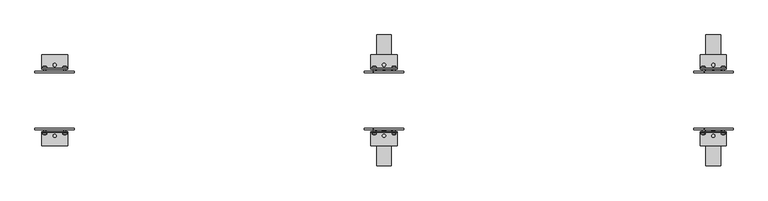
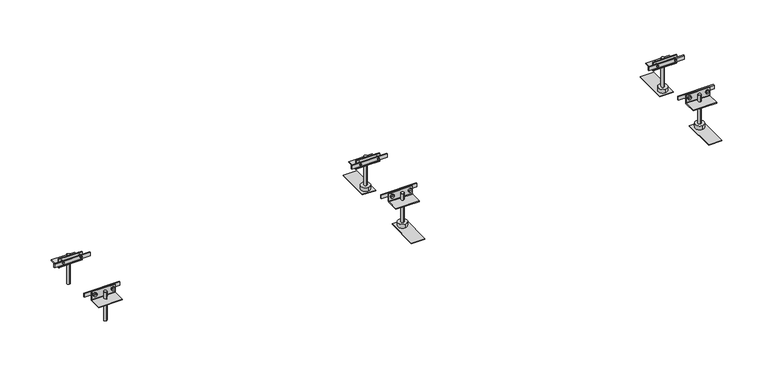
"""IFC4 building model written with IfcOpenShell, lengths in millimetres: proxy geometry, Electrical_Installation_Hager_BKW-Trunking-System-With-Trunking-Bottom-For-Dry-Cleaned-Floors : Nominal Size 150  Length 2.4 m."""

from ifc_helpers import new_model, si_unit, point, frame, frame_2d, origin, place, context, project, spatial, polyline, circle_curve, ellipse_curve, trimmed, segment, composite_curve, outline, extrude, source, transform, mapped, element, save
from ifc_brep_helpers import plane_surface, cylinder_surface, revolved_surface, advanced_brep


def electrical_fixtures_1b6315bd(model_context):
    return source(origin(), model_context, "Body", "SolidModel", [
        advanced_brep(
        [(1629.0575247, -81.6418922, 2.5), (1619.4769168, -81.6418922, 2.5), (1619.4769168, -79.7, 2.5), (1629.0575247, -79.7, 2.5), (1621.7042517, -79.7, 2.5), (1626.8301898, -79.7, 2.5), (1621.7042517, -67.7, 2.5), (1626.8301898, -67.7, 2.5), (1624.2672208, -67.7, 2.5), (1624.2672208, -83.3479209, 2.5)],
        [
            (0, 1, circle_curve(frame((1624.2672208, -81.6418922, 2.5), z_axis=(0.0, 1.0, 0.0), x_axis=(-1.0, 0.0, 0.0)), 4.790304)),
            (1, 2),
            (2, 3, circle_curve(frame((1624.2672208, -79.7, 2.5), z_axis=(0.0, -1.0, 0.0), x_axis=(-1.0, 0.0, 0.0)), 4.790304)),
            (3, 0),
            (1, 0, circle_curve(frame((1624.2672208, -81.6418922, 2.5), z_axis=(0.0, 1.0, 0.0), x_axis=(-1.0, 0.0, 0.0)), 4.790304)),
            (3, 2, circle_curve(frame((1624.2672208, -79.7, 2.5), z_axis=(0.0, -1.0, 0.0), x_axis=(-1.0, 0.0, 0.0)), 4.790304)),
            (2, 4),
            (4, 5, circle_curve(frame((1624.2672208, -79.7, 2.5), z_axis=(0.0, -1.0, 0.0), x_axis=(-1.0, 0.0, 0.0)), 2.562969)),
            (5, 3),
            (5, 4, circle_curve(frame((1624.2672208, -79.7, 2.5), z_axis=(0.0, -1.0, 0.0), x_axis=(-1.0, 0.0, 0.0)), 2.562969)),
            (4, 6),
            (6, 7, circle_curve(frame((1624.2672208, -67.7, 2.5), z_axis=(0.0, -1.0, 0.0), x_axis=(-1.0, 0.0, 0.0)), 2.562969)),
            (7, 5),
            (7, 6, circle_curve(frame((1624.2672208, -67.7, 2.5), z_axis=(0.0, -1.0, 0.0), x_axis=(-1.0, 0.0, 0.0)), 2.562969)),
            (6, 8),
            (8, 7),
            (9, 1, circle_curve(frame((1624.2353142, -75.8592246, 2.5), z_axis=(0.0, 0.0, -1.0), x_axis=(-1.0, 0.0, 0.0)), 7.4887643)),
            (0, 9, circle_curve(frame((1624.2991274, -75.8592246, 2.5), z_axis=(0.0, 0.0, -1.0), x_axis=(1.0, 0.0, 0.0)), 7.4887643)),
        ],
        [
            cylinder_surface(frame((1624.2672208, -79.2950786, 2.5), z_axis=(0.0, -1.0, 0.0), x_axis=(-1.0, 0.0, 0.0)), 4.790304),
            plane_surface(frame((1624.2672208, -79.7, 2.5), z_axis=(0.0, 1.0, 0.0), x_axis=(-1.0, 0.0, 0.0))),
            cylinder_surface(frame((1624.2672208, -79.2950786, 2.5), z_axis=(0.0, -1.0, 0.0), x_axis=(-1.0, 0.0, 0.0)), 2.562969),
            plane_surface(frame((1624.2672208, -67.7, 2.5), z_axis=(0.0, 1.0, 0.0), x_axis=(-1.0, 0.0, 0.0))),
            revolved_surface(trimmed(ellipse_curve(frame((1624.2353142, -75.8592246, 2.5), z_axis=(0.0, 0.0, 1.0), x_axis=(-1.0, 0.0, 0.0)), 7.4887643, 7.4887643), [point((1619.4769168, -81.6418922, 2.5))], [point((1624.2672208, -83.3479209, 2.5))], True, "CARTESIAN"), (1624.2672208, -79.2950786, 2.5), (0.0, -1.0, 0.0)),
        ],
        [
            (0, [[1, 2, 3, 4]]),
            (0, [[5, -4, 6, -2]]),
            (1, [[-3, 7, 8, 9]]),
            (1, [[-6, -9, 10, -7]]),
            (2, [[-8, 11, 12, 13]]),
            (2, [[-10, -13, 14, -11]]),
            (3, [[-12, 15, 16]]),
            (3, [[-14, -16, -15]]),
            (4, [[17, -1, 18]]),
            (4, [[-18, -5, -17]]),
        ],
    ),
        advanced_brep(
        [(1580.790304, -81.6418922, 2.5), (1571.209696, -81.6418922, 2.5), (1571.209696, -79.7, 2.5), (1580.790304, -79.7, 2.5), (1573.437031, -79.7, 2.5), (1578.562969, -79.7, 2.5), (1573.437031, -67.7, 2.5), (1578.562969, -67.7, 2.5), (1576.0, -67.7, 2.5), (1576.0, -83.3479209, 2.5)],
        [
            (0, 1, circle_curve(frame((1576.0, -81.6418922, 2.5), z_axis=(0.0, 1.0, 0.0), x_axis=(-1.0, 0.0, 0.0)), 4.790304)),
            (1, 2),
            (2, 3, circle_curve(frame((1576.0, -79.7, 2.5), z_axis=(0.0, -1.0, 0.0), x_axis=(-1.0, 0.0, 0.0)), 4.790304)),
            (3, 0),
            (1, 0, circle_curve(frame((1576.0, -81.6418922, 2.5), z_axis=(0.0, 1.0, 0.0), x_axis=(-1.0, 0.0, 0.0)), 4.790304)),
            (3, 2, circle_curve(frame((1576.0, -79.7, 2.5), z_axis=(0.0, -1.0, 0.0), x_axis=(-1.0, 0.0, 0.0)), 4.790304)),
            (2, 4),
            (4, 5, circle_curve(frame((1576.0, -79.7, 2.5), z_axis=(0.0, -1.0, 0.0), x_axis=(-1.0, 0.0, 0.0)), 2.562969)),
            (5, 3),
            (5, 4, circle_curve(frame((1576.0, -79.7, 2.5), z_axis=(0.0, -1.0, 0.0), x_axis=(-1.0, 0.0, 0.0)), 2.562969)),
            (4, 6),
            (6, 7, circle_curve(frame((1576.0, -67.7, 2.5), z_axis=(0.0, -1.0, 0.0), x_axis=(-1.0, 0.0, 0.0)), 2.562969)),
            (7, 5),
            (7, 6, circle_curve(frame((1576.0, -67.7, 2.5), z_axis=(0.0, -1.0, 0.0), x_axis=(-1.0, 0.0, 0.0)), 2.562969)),
            (6, 8),
            (8, 7),
            (9, 1, circle_curve(frame((1575.9680934, -75.8592246, 2.5), z_axis=(0.0, 0.0, -1.0), x_axis=(-1.0, 0.0, 0.0)), 7.4887643)),
            (0, 9, circle_curve(frame((1576.0319066, -75.8592246, 2.5), z_axis=(0.0, 0.0, -1.0), x_axis=(1.0, 0.0, 0.0)), 7.4887643)),
        ],
        [
            cylinder_surface(frame((1576.0, -79.2950786, 2.5), z_axis=(0.0, -1.0, 0.0), x_axis=(-1.0, 0.0, 0.0)), 4.790304),
            plane_surface(frame((1576.0, -79.7, 2.5), z_axis=(0.0, 1.0, 0.0), x_axis=(-1.0, 0.0, 0.0))),
            cylinder_surface(frame((1576.0, -79.2950786, 2.5), z_axis=(0.0, -1.0, 0.0), x_axis=(-1.0, 0.0, 0.0)), 2.562969),
            plane_surface(frame((1576.0, -67.7, 2.5), z_axis=(0.0, 1.0, 0.0), x_axis=(-1.0, 0.0, 0.0))),
            revolved_surface(trimmed(ellipse_curve(frame((1575.9680934, -75.8592246, 2.5), z_axis=(0.0, 0.0, 1.0), x_axis=(-1.0, 0.0, 0.0)), 7.4887643, 7.4887643), [point((1571.209696, -81.6418922, 2.5))], [point((1576.0, -83.3479209, 2.5))], True, "CARTESIAN"), (1576.0, -79.2950786, 2.5), (0.0, -1.0, 0.0)),
        ],
        [
            (0, [[1, 2, 3, 4]]),
            (0, [[5, -4, 6, -2]]),
            (1, [[-3, 7, 8, 9]]),
            (1, [[-6, -9, 10, -7]]),
            (2, [[-8, 11, 12, 13]]),
            (2, [[-10, -13, 14, -11]]),
            (3, [[-12, 15, 16]]),
            (3, [[-14, -16, -15]]),
            (4, [[17, -1, 18]]),
            (4, [[-18, -5, -17]]),
        ],
    ),
        advanced_brep(
        [(1629.0575247, 79.7, 2.5), (1619.4769168, 79.7, 2.5), (1619.4769168, 81.6418922, 2.5), (1629.0575247, 81.6418922, 2.5), (1626.8301898, 79.7, 2.5), (1621.7042517, 79.7, 2.5), (1626.8301898, 67.7, 2.5), (1621.7042517, 67.7, 2.5), (1624.2672208, 67.7, 2.5), (1624.2672208, 83.3479209, 2.5)],
        [
            (0, 1, circle_curve(frame((1624.2672208, 79.7, 2.5), z_axis=(0.0, 1.0, 0.0), x_axis=(-1.0, 0.0, 0.0)), 4.790304)),
            (1, 2),
            (2, 3, circle_curve(frame((1624.2672208, 81.6418922, 2.5), z_axis=(0.0, -1.0, 0.0), x_axis=(-1.0, 0.0, 0.0)), 4.790304)),
            (3, 0),
            (1, 0, circle_curve(frame((1624.2672208, 79.7, 2.5), z_axis=(0.0, 1.0, 0.0), x_axis=(-1.0, 0.0, 0.0)), 4.790304)),
            (3, 2, circle_curve(frame((1624.2672208, 81.6418922, 2.5), z_axis=(0.0, -1.0, 0.0), x_axis=(-1.0, 0.0, 0.0)), 4.790304)),
            (4, 5, circle_curve(frame((1624.2672208, 79.7, 2.5), z_axis=(0.0, 1.0, 0.0), x_axis=(-1.0, 0.0, 0.0)), 2.562969)),
            (5, 1),
            (0, 4),
            (5, 4, circle_curve(frame((1624.2672208, 79.7, 2.5), z_axis=(0.0, 1.0, 0.0), x_axis=(-1.0, 0.0, 0.0)), 2.562969)),
            (6, 7, circle_curve(frame((1624.2672208, 67.7, 2.5), z_axis=(0.0, 1.0, 0.0), x_axis=(-1.0, 0.0, 0.0)), 2.562969)),
            (7, 5),
            (4, 6),
            (7, 6, circle_curve(frame((1624.2672208, 67.7, 2.5), z_axis=(0.0, 1.0, 0.0), x_axis=(-1.0, 0.0, 0.0)), 2.562969)),
            (8, 7),
            (6, 8),
            (2, 9, circle_curve(frame((1624.2353142, 75.8592246, 2.5), z_axis=(0.0, 0.0, -1.0), x_axis=(-1.0, 0.0, 0.0)), 7.4887643)),
            (9, 3, circle_curve(frame((1624.2991274, 75.8592246, 2.5), z_axis=(0.0, 0.0, -1.0), x_axis=(1.0, 0.0, 0.0)), 7.4887643)),
        ],
        [
            cylinder_surface(frame((1624.2672208, 79.2950786, 2.5), z_axis=(0.0, -1.0, 0.0), x_axis=(-1.0, 0.0, 0.0)), 4.790304),
            plane_surface(frame((1624.2672208, 79.7, 2.5), z_axis=(0.0, -1.0, 0.0), x_axis=(-1.0, 0.0, 0.0))),
            cylinder_surface(frame((1624.2672208, 79.2950786, 2.5), z_axis=(0.0, -1.0, 0.0), x_axis=(-1.0, 0.0, 0.0)), 2.562969),
            plane_surface(frame((1624.2672208, 67.7, 2.5), z_axis=(0.0, -1.0, 0.0), x_axis=(-1.0, 0.0, 0.0))),
            revolved_surface(trimmed(ellipse_curve(frame((1624.2353142, 75.8592246, 2.5), z_axis=(0.0, 0.0, 1.0), x_axis=(-1.0, 0.0, 0.0)), 7.4887643, 7.4887643), [point((1624.2672208, 83.3479209, 2.5))], [point((1619.4769168, 81.6418922, 2.5))], True, "CARTESIAN"), (1624.2672208, 79.2950786, 2.5), (0.0, -1.0, 0.0)),
        ],
        [
            (0, [[1, 2, 3, 4]]),
            (0, [[5, -4, 6, -2]]),
            (1, [[7, 8, -1, 9]]),
            (1, [[10, -9, -5, -8]]),
            (2, [[11, 12, -7, 13]]),
            (2, [[14, -13, -10, -12]]),
            (3, [[15, -11, 16]]),
            (3, [[-16, -14, -15]]),
            (4, [[-3, 17, 18]]),
            (4, [[-6, -18, -17]]),
        ],
    ),
        advanced_brep(
        [(1580.790304, 79.7, 2.5), (1571.209696, 79.7, 2.5), (1571.209696, 81.6418922, 2.5), (1580.790304, 81.6418922, 2.5), (1578.562969, 79.7, 2.5), (1573.437031, 79.7, 2.5), (1578.562969, 67.7, 2.5), (1573.437031, 67.7, 2.5), (1576.0, 67.7, 2.5), (1576.0, 83.3479209, 2.5)],
        [
            (0, 1, circle_curve(frame((1576.0, 79.7, 2.5), z_axis=(0.0, 1.0, 0.0), x_axis=(-1.0, 0.0, 0.0)), 4.790304)),
            (1, 2),
            (2, 3, circle_curve(frame((1576.0, 81.6418922, 2.5), z_axis=(0.0, -1.0, 0.0), x_axis=(-1.0, 0.0, 0.0)), 4.790304)),
            (3, 0),
            (1, 0, circle_curve(frame((1576.0, 79.7, 2.5), z_axis=(0.0, 1.0, 0.0), x_axis=(-1.0, 0.0, 0.0)), 4.790304)),
            (3, 2, circle_curve(frame((1576.0, 81.6418922, 2.5), z_axis=(0.0, -1.0, 0.0), x_axis=(-1.0, 0.0, 0.0)), 4.790304)),
            (4, 5, circle_curve(frame((1576.0, 79.7, 2.5), z_axis=(0.0, 1.0, 0.0), x_axis=(-1.0, 0.0, 0.0)), 2.562969)),
            (5, 1),
            (0, 4),
            (5, 4, circle_curve(frame((1576.0, 79.7, 2.5), z_axis=(0.0, 1.0, 0.0), x_axis=(-1.0, 0.0, 0.0)), 2.562969)),
            (6, 7, circle_curve(frame((1576.0, 67.7, 2.5), z_axis=(0.0, 1.0, 0.0), x_axis=(-1.0, 0.0, 0.0)), 2.562969)),
            (7, 5),
            (4, 6),
            (7, 6, circle_curve(frame((1576.0, 67.7, 2.5), z_axis=(0.0, 1.0, 0.0), x_axis=(-1.0, 0.0, 0.0)), 2.562969)),
            (8, 7),
            (6, 8),
            (2, 9, circle_curve(frame((1575.9680934, 75.8592246, 2.5), z_axis=(0.0, 0.0, -1.0), x_axis=(-1.0, 0.0, 0.0)), 7.4887643)),
            (9, 3, circle_curve(frame((1576.0319066, 75.8592246, 2.5), z_axis=(0.0, 0.0, -1.0), x_axis=(1.0, 0.0, 0.0)), 7.4887643)),
        ],
        [
            cylinder_surface(frame((1576.0, 79.2950786, 2.5), z_axis=(0.0, -1.0, 0.0), x_axis=(-1.0, 0.0, 0.0)), 4.790304),
            plane_surface(frame((1576.0, 79.7, 2.5), z_axis=(0.0, -1.0, 0.0), x_axis=(-1.0, 0.0, 0.0))),
            cylinder_surface(frame((1576.0, 79.2950786, 2.5), z_axis=(0.0, -1.0, 0.0), x_axis=(-1.0, 0.0, 0.0)), 2.562969),
            plane_surface(frame((1576.0, 67.7, 2.5), z_axis=(0.0, -1.0, 0.0), x_axis=(-1.0, 0.0, 0.0))),
            revolved_surface(trimmed(ellipse_curve(frame((1575.9680934, 75.8592246, 2.5), z_axis=(0.0, 0.0, 1.0), x_axis=(-1.0, 0.0, 0.0)), 7.4887643, 7.4887643), [point((1576.0, 83.3479209, 2.5))], [point((1571.209696, 81.6418922, 2.5))], True, "CARTESIAN"), (1576.0, 79.2950786, 2.5), (0.0, -1.0, 0.0)),
        ],
        [
            (0, [[1, 2, 3, 4]]),
            (0, [[5, -4, 6, -2]]),
            (1, [[7, 8, -1, 9]]),
            (1, [[10, -9, -5, -8]]),
            (2, [[11, 12, -7, 13]]),
            (2, [[14, -13, -10, -12]]),
            (3, [[15, -11, 16]]),
            (3, [[-16, -14, -15]]),
            (4, [[-3, 17, 18]]),
            (4, [[-6, -18, -17]]),
        ],
    ),
        extrude(outline(polyline([(1552.0, 67.7), (1552.0, 70.7), (1648.0, 70.7), (1648.0, 67.7), (1552.0, 67.7)])), frame((0.0, 0.0, -2.5), z_axis=(0.0, 0.0, 1.0), x_axis=(1.0, 0.0, 0.0)), (0.0, 0.0, 1.0), 10.0),
        extrude(outline(polyline([(1552.0, -70.7), (1552.0, -67.7), (1648.0, -67.7), (1648.0, -70.7), (1552.0, -70.7)])), frame((0.0, 0.0, -2.5), z_axis=(0.0, 0.0, 1.0), x_axis=(1.0, 0.0, 0.0)), (0.0, 0.0, 1.0), 10.0),
        extrude(outline(composite_curve([segment(polyline([(75.6, 10.9), (77.6, 10.9), (77.6, -11.1088822)]), True, "CONTINUOUS"), segment(trimmed(circle_curve(frame_2d((78.5911178, -11.1088822)), 0.9911178), [point((77.6, -11.1088822))], [point((78.5911178, -12.1))], True, "CARTESIAN"), True, "CONTINUOUS"), segment(polyline([(78.5911178, -12.1), (110.6, -12.1), (110.6, -14.1), (78.6002521, -14.1)]), True, "CONTINUOUS"), segment(trimmed(circle_curve(frame_2d((78.6002521, -11.0997479)), 3.0002521), [point((78.6002521, -14.1))], [point((75.6, -11.0997479))], False, "CARTESIAN"), True, "CONTINUOUS"), segment(polyline([(75.6, -11.0997479), (75.6, 10.9)]), True, "CONTINUOUS")], self_intersect=False)), frame((1568.3, 0.0, 0.0), z_axis=(1.0, 0.0, 0.0), x_axis=(0.0, 1.0, 0.0)), (0.0, 0.0, 1.0), 63.4),
        extrude(outline(composite_curve([segment(polyline([(-75.6, 10.9), (-75.6, -11.0997479)]), True, "CONTINUOUS"), segment(trimmed(circle_curve(frame_2d((-78.6002521, -11.0997479)), 3.0002521), [point((-75.6, -11.0997479))], [point((-78.6002521, -14.1))], False, "CARTESIAN"), True, "CONTINUOUS"), segment(polyline([(-78.6002521, -14.1), (-110.6, -14.1), (-110.6, -12.1), (-78.5911178, -12.1)]), True, "CONTINUOUS"), segment(trimmed(circle_curve(frame_2d((-78.5911178, -11.1088822)), 0.9911178), [point((-78.5911178, -12.1))], [point((-77.6, -11.1088822))], True, "CARTESIAN"), True, "CONTINUOUS"), segment(polyline([(-77.6, -11.1088822), (-77.6, 10.9), (-75.6, 10.9)]), True, "CONTINUOUS")], self_intersect=False)), frame((1568.3, 0.0, 0.0), z_axis=(1.0, 0.0, 0.0), x_axis=(0.0, 1.0, 0.0)), (0.0, 0.0, 1.0), 63.4),
        extrude(outline(composite_curve([segment(trimmed(circle_curve(frame_2d((1600.0, 86.1712378)), 3.9923162), [point((1600.0, 90.163554))], [point((1600.0, 82.1789216))], False, "CARTESIAN"), True, "CONTINUOUS"), segment(trimmed(circle_curve(frame_2d((1600.0, 86.1712378)), 3.9923162), [point((1600.0, 82.1789216))], [point((1600.0, 90.163554))], False, "CARTESIAN"), True, "CONTINUOUS")], self_intersect=False)), frame((0.0, 0.0, -74.8), z_axis=(0.0, 0.0, 1.0), x_axis=(1.0, 0.0, 0.0)), (0.0, 0.0, 1.0), 81.8),
        extrude(outline(composite_curve([segment(trimmed(circle_curve(frame_2d((1600.0, -86.0787011)), 3.991847), [point((1600.0, -82.0868541))], [point((1600.0, -90.0705482))], False, "CARTESIAN"), True, "CONTINUOUS"), segment(trimmed(circle_curve(frame_2d((1600.0, -86.0787011)), 3.991847), [point((1600.0, -90.0705482))], [point((1600.0, -82.0868541))], False, "CARTESIAN"), True, "CONTINUOUS")], self_intersect=False)), frame((0.0, 0.0, -74.8), z_axis=(0.0, 0.0, 1.0), x_axis=(1.0, 0.0, 0.0)), (0.0, 0.0, 1.0), 81.8),
        extrude(outline(composite_curve([segment(trimmed(circle_curve(frame_2d((1600.0, 86.1652527)), 12.0), [point((1600.0, 98.1652527))], [point((1600.0, 74.1652527))], False, "CARTESIAN"), True, "CONTINUOUS"), segment(trimmed(circle_curve(frame_2d((1600.0, 86.1652527)), 12.0), [point((1600.0, 74.1652527))], [point((1600.0, 98.1652527))], False, "CARTESIAN"), True, "CONTINUOUS")], self_intersect=False)), frame((0.0, 0.0, -85.5), z_axis=(0.0, 0.0, 1.0), x_axis=(1.0, 0.0, 0.0)), (0.0, 0.0, 1.0), 10.7),
        extrude(outline(composite_curve([segment(trimmed(circle_curve(frame_2d((1600.0, -86.112037)), 12.0), [point((1600.0, -74.112037))], [point((1600.0, -98.112037))], False, "CARTESIAN"), True, "CONTINUOUS"), segment(trimmed(circle_curve(frame_2d((1600.0, -86.112037)), 12.0), [point((1600.0, -98.112037))], [point((1600.0, -74.112037))], False, "CARTESIAN"), True, "CONTINUOUS")], self_intersect=False)), frame((0.0, 0.0, -85.5), z_axis=(0.0, 0.0, 1.0), x_axis=(1.0, 0.0, 0.0)), (0.0, 0.0, 1.0), 10.7),
        extrude(outline(polyline([(1618.0, 69.1), (1582.0, 69.1), (1582.0, 159.1), (1618.0, 159.1), (1618.0, 69.1)])), frame((0.0, 0.0, -87.0), z_axis=(0.0, 0.0, 1.0), x_axis=(1.0, 0.0, 0.0)), (0.0, 0.0, 1.0), 1.5),
        extrude(outline(polyline([(1618.0, -159.1), (1582.0, -159.1), (1582.0, -69.1), (1618.0, -69.1), (1618.0, -159.1)])), frame((0.0, 0.0, -87.0), z_axis=(0.0, 0.0, 1.0), x_axis=(1.0, 0.0, 0.0)), (0.0, 0.0, 1.0), 1.5),
        advanced_brep(
        [(829.0575247, -81.6418922, 2.5), (819.4769168, -81.6418922, 2.5), (819.4769168, -79.7, 2.5), (829.0575247, -79.7, 2.5), (821.7042517, -79.7, 2.5), (826.8301898, -79.7, 2.5), (821.7042517, -67.7, 2.5), (826.8301898, -67.7, 2.5), (824.2672208, -67.7, 2.5), (824.2672208, -83.3479209, 2.5)],
        [
            (0, 1, circle_curve(frame((824.2672208, -81.6418922, 2.5), z_axis=(0.0, 1.0, 0.0), x_axis=(-1.0, 0.0, 0.0)), 4.790304)),
            (1, 2),
            (2, 3, circle_curve(frame((824.2672208, -79.7, 2.5), z_axis=(0.0, -1.0, 0.0), x_axis=(-1.0, 0.0, 0.0)), 4.790304)),
            (3, 0),
            (1, 0, circle_curve(frame((824.2672208, -81.6418922, 2.5), z_axis=(0.0, 1.0, 0.0), x_axis=(-1.0, 0.0, 0.0)), 4.790304)),
            (3, 2, circle_curve(frame((824.2672208, -79.7, 2.5), z_axis=(0.0, -1.0, 0.0), x_axis=(-1.0, 0.0, 0.0)), 4.790304)),
            (2, 4),
            (4, 5, circle_curve(frame((824.2672208, -79.7, 2.5), z_axis=(0.0, -1.0, 0.0), x_axis=(-1.0, 0.0, 0.0)), 2.562969)),
            (5, 3),
            (5, 4, circle_curve(frame((824.2672208, -79.7, 2.5), z_axis=(0.0, -1.0, 0.0), x_axis=(-1.0, 0.0, 0.0)), 2.562969)),
            (4, 6),
            (6, 7, circle_curve(frame((824.2672208, -67.7, 2.5), z_axis=(0.0, -1.0, 0.0), x_axis=(-1.0, 0.0, 0.0)), 2.562969)),
            (7, 5),
            (7, 6, circle_curve(frame((824.2672208, -67.7, 2.5), z_axis=(0.0, -1.0, 0.0), x_axis=(-1.0, 0.0, 0.0)), 2.562969)),
            (6, 8),
            (8, 7),
            (9, 1, circle_curve(frame((824.2353142, -75.8592246, 2.5), z_axis=(0.0, 0.0, -1.0), x_axis=(-1.0, 0.0, 0.0)), 7.4887643)),
            (0, 9, circle_curve(frame((824.2991274, -75.8592246, 2.5), z_axis=(0.0, 0.0, -1.0), x_axis=(1.0, 0.0, 0.0)), 7.4887643)),
        ],
        [
            cylinder_surface(frame((824.2672208, -79.2950786, 2.5), z_axis=(0.0, -1.0, 0.0), x_axis=(-1.0, 0.0, 0.0)), 4.790304),
            plane_surface(frame((824.2672208, -79.7, 2.5), z_axis=(0.0, 1.0, 0.0), x_axis=(-1.0, 0.0, 0.0))),
            cylinder_surface(frame((824.2672208, -79.2950786, 2.5), z_axis=(0.0, -1.0, 0.0), x_axis=(-1.0, 0.0, 0.0)), 2.562969),
            plane_surface(frame((824.2672208, -67.7, 2.5), z_axis=(0.0, 1.0, 0.0), x_axis=(-1.0, 0.0, 0.0))),
            revolved_surface(trimmed(ellipse_curve(frame((824.2353142, -75.8592246, 2.5), z_axis=(0.0, 0.0, 1.0), x_axis=(-1.0, 0.0, 0.0)), 7.4887643, 7.4887643), [point((819.4769168, -81.6418922, 2.5))], [point((824.2672208, -83.3479209, 2.5))], True, "CARTESIAN"), (824.2672208, -79.2950786, 2.5), (0.0, -1.0, 0.0)),
        ],
        [
            (0, [[1, 2, 3, 4]]),
            (0, [[5, -4, 6, -2]]),
            (1, [[-3, 7, 8, 9]]),
            (1, [[-6, -9, 10, -7]]),
            (2, [[-8, 11, 12, 13]]),
            (2, [[-10, -13, 14, -11]]),
            (3, [[-12, 15, 16]]),
            (3, [[-14, -16, -15]]),
            (4, [[17, -1, 18]]),
            (4, [[-18, -5, -17]]),
        ],
    ),
        advanced_brep(
        [(780.790304, -81.6418922, 2.5), (771.209696, -81.6418922, 2.5), (771.209696, -79.7, 2.5), (780.790304, -79.7, 2.5), (773.437031, -79.7, 2.5), (778.562969, -79.7, 2.5), (773.437031, -67.7, 2.5), (778.562969, -67.7, 2.5), (776.0, -67.7, 2.5), (776.0, -83.3479209, 2.5)],
        [
            (0, 1, circle_curve(frame((776.0, -81.6418922, 2.5), z_axis=(0.0, 1.0, 0.0), x_axis=(-1.0, 0.0, 0.0)), 4.790304)),
            (1, 2),
            (2, 3, circle_curve(frame((776.0, -79.7, 2.5), z_axis=(0.0, -1.0, 0.0), x_axis=(-1.0, 0.0, 0.0)), 4.790304)),
            (3, 0),
            (1, 0, circle_curve(frame((776.0, -81.6418922, 2.5), z_axis=(0.0, 1.0, 0.0), x_axis=(-1.0, 0.0, 0.0)), 4.790304)),
            (3, 2, circle_curve(frame((776.0, -79.7, 2.5), z_axis=(0.0, -1.0, 0.0), x_axis=(-1.0, 0.0, 0.0)), 4.790304)),
            (2, 4),
            (4, 5, circle_curve(frame((776.0, -79.7, 2.5), z_axis=(0.0, -1.0, 0.0), x_axis=(-1.0, 0.0, 0.0)), 2.562969)),
            (5, 3),
            (5, 4, circle_curve(frame((776.0, -79.7, 2.5), z_axis=(0.0, -1.0, 0.0), x_axis=(-1.0, 0.0, 0.0)), 2.562969)),
            (4, 6),
            (6, 7, circle_curve(frame((776.0, -67.7, 2.5), z_axis=(0.0, -1.0, 0.0), x_axis=(-1.0, 0.0, 0.0)), 2.562969)),
            (7, 5),
            (7, 6, circle_curve(frame((776.0, -67.7, 2.5), z_axis=(0.0, -1.0, 0.0), x_axis=(-1.0, 0.0, 0.0)), 2.562969)),
            (6, 8),
            (8, 7),
            (9, 1, circle_curve(frame((775.9680934, -75.8592246, 2.5), z_axis=(0.0, 0.0, -1.0), x_axis=(-1.0, 0.0, 0.0)), 7.4887643)),
            (0, 9, circle_curve(frame((776.0319066, -75.8592246, 2.5), z_axis=(0.0, 0.0, -1.0), x_axis=(1.0, 0.0, 0.0)), 7.4887643)),
        ],
        [
            cylinder_surface(frame((776.0, -79.2950786, 2.5), z_axis=(0.0, -1.0, 0.0), x_axis=(-1.0, 0.0, 0.0)), 4.790304),
            plane_surface(frame((776.0, -79.7, 2.5), z_axis=(0.0, 1.0, 0.0), x_axis=(-1.0, 0.0, 0.0))),
            cylinder_surface(frame((776.0, -79.2950786, 2.5), z_axis=(0.0, -1.0, 0.0), x_axis=(-1.0, 0.0, 0.0)), 2.562969),
            plane_surface(frame((776.0, -67.7, 2.5), z_axis=(0.0, 1.0, 0.0), x_axis=(-1.0, 0.0, 0.0))),
            revolved_surface(trimmed(ellipse_curve(frame((775.9680934, -75.8592246, 2.5), z_axis=(0.0, 0.0, 1.0), x_axis=(-1.0, 0.0, 0.0)), 7.4887643, 7.4887643), [point((771.209696, -81.6418922, 2.5))], [point((776.0, -83.3479209, 2.5))], True, "CARTESIAN"), (776.0, -79.2950786, 2.5), (0.0, -1.0, 0.0)),
        ],
        [
            (0, [[1, 2, 3, 4]]),
            (0, [[5, -4, 6, -2]]),
            (1, [[-3, 7, 8, 9]]),
            (1, [[-6, -9, 10, -7]]),
            (2, [[-8, 11, 12, 13]]),
            (2, [[-10, -13, 14, -11]]),
            (3, [[-12, 15, 16]]),
            (3, [[-14, -16, -15]]),
            (4, [[17, -1, 18]]),
            (4, [[-18, -5, -17]]),
        ],
    ),
        advanced_brep(
        [(829.0575247, 79.7, 2.5), (819.4769168, 79.7, 2.5), (819.4769168, 81.6418922, 2.5), (829.0575247, 81.6418922, 2.5), (826.8301898, 79.7, 2.5), (821.7042517, 79.7, 2.5), (826.8301898, 67.7, 2.5), (821.7042517, 67.7, 2.5), (824.2672208, 67.7, 2.5), (824.2672208, 83.3479209, 2.5)],
        [
            (0, 1, circle_curve(frame((824.2672208, 79.7, 2.5), z_axis=(0.0, 1.0, 0.0), x_axis=(-1.0, 0.0, 0.0)), 4.790304)),
            (1, 2),
            (2, 3, circle_curve(frame((824.2672208, 81.6418922, 2.5), z_axis=(0.0, -1.0, 0.0), x_axis=(-1.0, 0.0, 0.0)), 4.790304)),
            (3, 0),
            (1, 0, circle_curve(frame((824.2672208, 79.7, 2.5), z_axis=(0.0, 1.0, 0.0), x_axis=(-1.0, 0.0, 0.0)), 4.790304)),
            (3, 2, circle_curve(frame((824.2672208, 81.6418922, 2.5), z_axis=(0.0, -1.0, 0.0), x_axis=(-1.0, 0.0, 0.0)), 4.790304)),
            (4, 5, circle_curve(frame((824.2672208, 79.7, 2.5), z_axis=(0.0, 1.0, 0.0), x_axis=(-1.0, 0.0, 0.0)), 2.562969)),
            (5, 1),
            (0, 4),
            (5, 4, circle_curve(frame((824.2672208, 79.7, 2.5), z_axis=(0.0, 1.0, 0.0), x_axis=(-1.0, 0.0, 0.0)), 2.562969)),
            (6, 7, circle_curve(frame((824.2672208, 67.7, 2.5), z_axis=(0.0, 1.0, 0.0), x_axis=(-1.0, 0.0, 0.0)), 2.562969)),
            (7, 5),
            (4, 6),
            (7, 6, circle_curve(frame((824.2672208, 67.7, 2.5), z_axis=(0.0, 1.0, 0.0), x_axis=(-1.0, 0.0, 0.0)), 2.562969)),
            (8, 7),
            (6, 8),
            (2, 9, circle_curve(frame((824.2353142, 75.8592246, 2.5), z_axis=(0.0, 0.0, -1.0), x_axis=(-1.0, 0.0, 0.0)), 7.4887643)),
            (9, 3, circle_curve(frame((824.2991274, 75.8592246, 2.5), z_axis=(0.0, 0.0, -1.0), x_axis=(1.0, 0.0, 0.0)), 7.4887643)),
        ],
        [
            cylinder_surface(frame((824.2672208, 79.2950786, 2.5), z_axis=(0.0, -1.0, 0.0), x_axis=(-1.0, 0.0, 0.0)), 4.790304),
            plane_surface(frame((824.2672208, 79.7, 2.5), z_axis=(0.0, -1.0, 0.0), x_axis=(-1.0, 0.0, 0.0))),
            cylinder_surface(frame((824.2672208, 79.2950786, 2.5), z_axis=(0.0, -1.0, 0.0), x_axis=(-1.0, 0.0, 0.0)), 2.562969),
            plane_surface(frame((824.2672208, 67.7, 2.5), z_axis=(0.0, -1.0, 0.0), x_axis=(-1.0, 0.0, 0.0))),
            revolved_surface(trimmed(ellipse_curve(frame((824.2353142, 75.8592246, 2.5), z_axis=(0.0, 0.0, 1.0), x_axis=(-1.0, 0.0, 0.0)), 7.4887643, 7.4887643), [point((824.2672208, 83.3479209, 2.5))], [point((819.4769168, 81.6418922, 2.5))], True, "CARTESIAN"), (824.2672208, 79.2950786, 2.5), (0.0, -1.0, 0.0)),
        ],
        [
            (0, [[1, 2, 3, 4]]),
            (0, [[5, -4, 6, -2]]),
            (1, [[7, 8, -1, 9]]),
            (1, [[10, -9, -5, -8]]),
            (2, [[11, 12, -7, 13]]),
            (2, [[14, -13, -10, -12]]),
            (3, [[15, -11, 16]]),
            (3, [[-16, -14, -15]]),
            (4, [[-3, 17, 18]]),
            (4, [[-6, -18, -17]]),
        ],
    ),
        advanced_brep(
        [(780.790304, 79.7, 2.5), (771.209696, 79.7, 2.5), (771.209696, 81.6418922, 2.5), (780.790304, 81.6418922, 2.5), (778.562969, 79.7, 2.5), (773.437031, 79.7, 2.5), (778.562969, 67.7, 2.5), (773.437031, 67.7, 2.5), (776.0, 67.7, 2.5), (776.0, 83.3479209, 2.5)],
        [
            (0, 1, circle_curve(frame((776.0, 79.7, 2.5), z_axis=(0.0, 1.0, 0.0), x_axis=(-1.0, 0.0, 0.0)), 4.790304)),
            (1, 2),
            (2, 3, circle_curve(frame((776.0, 81.6418922, 2.5), z_axis=(0.0, -1.0, 0.0), x_axis=(-1.0, 0.0, 0.0)), 4.790304)),
            (3, 0),
            (1, 0, circle_curve(frame((776.0, 79.7, 2.5), z_axis=(0.0, 1.0, 0.0), x_axis=(-1.0, 0.0, 0.0)), 4.790304)),
            (3, 2, circle_curve(frame((776.0, 81.6418922, 2.5), z_axis=(0.0, -1.0, 0.0), x_axis=(-1.0, 0.0, 0.0)), 4.790304)),
            (4, 5, circle_curve(frame((776.0, 79.7, 2.5), z_axis=(0.0, 1.0, 0.0), x_axis=(-1.0, 0.0, 0.0)), 2.562969)),
            (5, 1),
            (0, 4),
            (5, 4, circle_curve(frame((776.0, 79.7, 2.5), z_axis=(0.0, 1.0, 0.0), x_axis=(-1.0, 0.0, 0.0)), 2.562969)),
            (6, 7, circle_curve(frame((776.0, 67.7, 2.5), z_axis=(0.0, 1.0, 0.0), x_axis=(-1.0, 0.0, 0.0)), 2.562969)),
            (7, 5),
            (4, 6),
            (7, 6, circle_curve(frame((776.0, 67.7, 2.5), z_axis=(0.0, 1.0, 0.0), x_axis=(-1.0, 0.0, 0.0)), 2.562969)),
            (8, 7),
            (6, 8),
            (2, 9, circle_curve(frame((775.9680934, 75.8592246, 2.5), z_axis=(0.0, 0.0, -1.0), x_axis=(-1.0, 0.0, 0.0)), 7.4887643)),
            (9, 3, circle_curve(frame((776.0319066, 75.8592246, 2.5), z_axis=(0.0, 0.0, -1.0), x_axis=(1.0, 0.0, 0.0)), 7.4887643)),
        ],
        [
            cylinder_surface(frame((776.0, 79.2950786, 2.5), z_axis=(0.0, -1.0, 0.0), x_axis=(-1.0, 0.0, 0.0)), 4.790304),
            plane_surface(frame((776.0, 79.7, 2.5), z_axis=(0.0, -1.0, 0.0), x_axis=(-1.0, 0.0, 0.0))),
            cylinder_surface(frame((776.0, 79.2950786, 2.5), z_axis=(0.0, -1.0, 0.0), x_axis=(-1.0, 0.0, 0.0)), 2.562969),
            plane_surface(frame((776.0, 67.7, 2.5), z_axis=(0.0, -1.0, 0.0), x_axis=(-1.0, 0.0, 0.0))),
            revolved_surface(trimmed(ellipse_curve(frame((775.9680934, 75.8592246, 2.5), z_axis=(0.0, 0.0, 1.0), x_axis=(-1.0, 0.0, 0.0)), 7.4887643, 7.4887643), [point((776.0, 83.3479209, 2.5))], [point((771.209696, 81.6418922, 2.5))], True, "CARTESIAN"), (776.0, 79.2950786, 2.5), (0.0, -1.0, 0.0)),
        ],
        [
            (0, [[1, 2, 3, 4]]),
            (0, [[5, -4, 6, -2]]),
            (1, [[7, 8, -1, 9]]),
            (1, [[10, -9, -5, -8]]),
            (2, [[11, 12, -7, 13]]),
            (2, [[14, -13, -10, -12]]),
            (3, [[15, -11, 16]]),
            (3, [[-16, -14, -15]]),
            (4, [[-3, 17, 18]]),
            (4, [[-6, -18, -17]]),
        ],
    ),
        extrude(outline(polyline([(752.0, 67.7), (752.0, 70.7), (848.0, 70.7), (848.0, 67.7), (752.0, 67.7)])), frame((0.0, 0.0, -2.5), z_axis=(0.0, 0.0, 1.0), x_axis=(1.0, 0.0, 0.0)), (0.0, 0.0, 1.0), 10.0),
        extrude(outline(polyline([(752.0, -70.7), (752.0, -67.7), (848.0, -67.7), (848.0, -70.7), (752.0, -70.7)])), frame((0.0, 0.0, -2.5), z_axis=(0.0, 0.0, 1.0), x_axis=(1.0, 0.0, 0.0)), (0.0, 0.0, 1.0), 10.0),
        extrude(outline(composite_curve([segment(polyline([(75.6, 10.9), (77.6, 10.9), (77.6, -11.1088822)]), True, "CONTINUOUS"), segment(trimmed(circle_curve(frame_2d((78.5911178, -11.1088822)), 0.9911178), [point((77.6, -11.1088822))], [point((78.5911178, -12.1))], True, "CARTESIAN"), True, "CONTINUOUS"), segment(polyline([(78.5911178, -12.1), (110.6, -12.1), (110.6, -14.1), (78.6002521, -14.1)]), True, "CONTINUOUS"), segment(trimmed(circle_curve(frame_2d((78.6002521, -11.0997479)), 3.0002521), [point((78.6002521, -14.1))], [point((75.6, -11.0997479))], False, "CARTESIAN"), True, "CONTINUOUS"), segment(polyline([(75.6, -11.0997479), (75.6, 10.9)]), True, "CONTINUOUS")], self_intersect=False)), frame((768.3, 0.0, 0.0), z_axis=(1.0, 0.0, 0.0), x_axis=(0.0, 1.0, 0.0)), (0.0, 0.0, 1.0), 63.4),
        extrude(outline(composite_curve([segment(polyline([(-75.6, 10.9), (-75.6, -11.0997479)]), True, "CONTINUOUS"), segment(trimmed(circle_curve(frame_2d((-78.6002521, -11.0997479)), 3.0002521), [point((-75.6, -11.0997479))], [point((-78.6002521, -14.1))], False, "CARTESIAN"), True, "CONTINUOUS"), segment(polyline([(-78.6002521, -14.1), (-110.6, -14.1), (-110.6, -12.1), (-78.5911178, -12.1)]), True, "CONTINUOUS"), segment(trimmed(circle_curve(frame_2d((-78.5911178, -11.1088822)), 0.9911178), [point((-78.5911178, -12.1))], [point((-77.6, -11.1088822))], True, "CARTESIAN"), True, "CONTINUOUS"), segment(polyline([(-77.6, -11.1088822), (-77.6, 10.9), (-75.6, 10.9)]), True, "CONTINUOUS")], self_intersect=False)), frame((768.3, 0.0, 0.0), z_axis=(1.0, 0.0, 0.0), x_axis=(0.0, 1.0, 0.0)), (0.0, 0.0, 1.0), 63.4),
        extrude(outline(composite_curve([segment(trimmed(circle_curve(frame_2d((800.0, 86.1712378)), 3.9923162), [point((800.0, 90.163554))], [point((800.0, 82.1789216))], False, "CARTESIAN"), True, "CONTINUOUS"), segment(trimmed(circle_curve(frame_2d((800.0, 86.1712378)), 3.9923162), [point((800.0, 82.1789216))], [point((800.0, 90.163554))], False, "CARTESIAN"), True, "CONTINUOUS")], self_intersect=False)), frame((0.0, 0.0, -74.8), z_axis=(0.0, 0.0, 1.0), x_axis=(1.0, 0.0, 0.0)), (0.0, 0.0, 1.0), 81.8),
        extrude(outline(composite_curve([segment(trimmed(circle_curve(frame_2d((800.0, -86.0787011)), 3.991847), [point((800.0, -82.0868541))], [point((800.0, -90.0705482))], False, "CARTESIAN"), True, "CONTINUOUS"), segment(trimmed(circle_curve(frame_2d((800.0, -86.0787011)), 3.991847), [point((800.0, -90.0705482))], [point((800.0, -82.0868541))], False, "CARTESIAN"), True, "CONTINUOUS")], self_intersect=False)), frame((0.0, 0.0, -74.8), z_axis=(0.0, 0.0, 1.0), x_axis=(1.0, 0.0, 0.0)), (0.0, 0.0, 1.0), 81.8),
        extrude(outline(composite_curve([segment(trimmed(circle_curve(frame_2d((800.0, 86.1652527)), 12.0), [point((800.0, 98.1652527))], [point((800.0, 74.1652527))], False, "CARTESIAN"), True, "CONTINUOUS"), segment(trimmed(circle_curve(frame_2d((800.0, 86.1652527)), 12.0), [point((800.0, 74.1652527))], [point((800.0, 98.1652527))], False, "CARTESIAN"), True, "CONTINUOUS")], self_intersect=False)), frame((0.0, 0.0, -85.5), z_axis=(0.0, 0.0, 1.0), x_axis=(1.0, 0.0, 0.0)), (0.0, 0.0, 1.0), 10.7),
        extrude(outline(composite_curve([segment(trimmed(circle_curve(frame_2d((800.0, -86.112037)), 12.0), [point((800.0, -74.112037))], [point((800.0, -98.112037))], False, "CARTESIAN"), True, "CONTINUOUS"), segment(trimmed(circle_curve(frame_2d((800.0, -86.112037)), 12.0), [point((800.0, -98.112037))], [point((800.0, -74.112037))], False, "CARTESIAN"), True, "CONTINUOUS")], self_intersect=False)), frame((0.0, 0.0, -85.5), z_axis=(0.0, 0.0, 1.0), x_axis=(1.0, 0.0, 0.0)), (0.0, 0.0, 1.0), 10.7),
        extrude(outline(polyline([(818.0, 69.1), (782.0, 69.1), (782.0, 159.1), (818.0, 159.1), (818.0, 69.1)])), frame((0.0, 0.0, -87.0), z_axis=(0.0, 0.0, 1.0), x_axis=(1.0, 0.0, 0.0)), (0.0, 0.0, 1.0), 1.5),
        extrude(outline(polyline([(818.0, -159.1), (782.0, -159.1), (782.0, -69.1), (818.0, -69.1), (818.0, -159.1)])), frame((0.0, 0.0, -87.0), z_axis=(0.0, 0.0, 1.0), x_axis=(1.0, 0.0, 0.0)), (0.0, 0.0, 1.0), 1.5),
        advanced_brep(
        [(29.0575247, -81.6418922, 2.5), (19.4769168, -81.6418922, 2.5), (19.4769168, -79.7, 2.5), (29.0575247, -79.7, 2.5), (21.7042517, -79.7, 2.5), (26.8301898, -79.7, 2.5), (21.7042517, -67.7, 2.5), (26.8301898, -67.7, 2.5), (24.2672208, -67.7, 2.5), (24.2672208, -83.3479209, 2.5)],
        [
            (0, 1, circle_curve(frame((24.2672208, -81.6418922, 2.5), z_axis=(0.0, 1.0, 0.0), x_axis=(-1.0, 0.0, 0.0)), 4.790304)),
            (1, 2),
            (2, 3, circle_curve(frame((24.2672208, -79.7, 2.5), z_axis=(0.0, -1.0, 0.0), x_axis=(-1.0, 0.0, 0.0)), 4.790304)),
            (3, 0),
            (1, 0, circle_curve(frame((24.2672208, -81.6418922, 2.5), z_axis=(0.0, 1.0, 0.0), x_axis=(-1.0, 0.0, 0.0)), 4.790304)),
            (3, 2, circle_curve(frame((24.2672208, -79.7, 2.5), z_axis=(0.0, -1.0, 0.0), x_axis=(-1.0, 0.0, 0.0)), 4.790304)),
            (2, 4),
            (4, 5, circle_curve(frame((24.2672208, -79.7, 2.5), z_axis=(0.0, -1.0, 0.0), x_axis=(-1.0, 0.0, 0.0)), 2.562969)),
            (5, 3),
            (5, 4, circle_curve(frame((24.2672208, -79.7, 2.5), z_axis=(0.0, -1.0, 0.0), x_axis=(-1.0, 0.0, 0.0)), 2.562969)),
            (4, 6),
            (6, 7, circle_curve(frame((24.2672208, -67.7, 2.5), z_axis=(0.0, -1.0, 0.0), x_axis=(-1.0, 0.0, 0.0)), 2.562969)),
            (7, 5),
            (7, 6, circle_curve(frame((24.2672208, -67.7, 2.5), z_axis=(0.0, -1.0, 0.0), x_axis=(-1.0, 0.0, 0.0)), 2.562969)),
            (6, 8),
            (8, 7),
            (9, 1, circle_curve(frame((24.2353142, -75.8592246, 2.5), z_axis=(0.0, 0.0, -1.0), x_axis=(-1.0, 0.0, 0.0)), 7.4887643)),
            (0, 9, circle_curve(frame((24.2991274, -75.8592246, 2.5), z_axis=(0.0, 0.0, -1.0), x_axis=(1.0, 0.0, 0.0)), 7.4887643)),
        ],
        [
            cylinder_surface(frame((24.2672208, -79.2950786, 2.5), z_axis=(0.0, -1.0, 0.0), x_axis=(-1.0, 0.0, 0.0)), 4.790304),
            plane_surface(frame((24.2672208, -79.7, 2.5), z_axis=(0.0, 1.0, 0.0), x_axis=(-1.0, 0.0, 0.0))),
            cylinder_surface(frame((24.2672208, -79.2950786, 2.5), z_axis=(0.0, -1.0, 0.0), x_axis=(-1.0, 0.0, 0.0)), 2.562969),
            plane_surface(frame((24.2672208, -67.7, 2.5), z_axis=(0.0, 1.0, 0.0), x_axis=(-1.0, 0.0, 0.0))),
            revolved_surface(trimmed(ellipse_curve(frame((24.2353142, -75.8592246, 2.5), z_axis=(0.0, 0.0, 1.0), x_axis=(-1.0, 0.0, 0.0)), 7.4887643, 7.4887643), [point((19.4769168, -81.6418922, 2.5))], [point((24.2672208, -83.3479209, 2.5))], True, "CARTESIAN"), (24.2672208, -79.2950786, 2.5), (0.0, -1.0, 0.0)),
        ],
        [
            (0, [[1, 2, 3, 4]]),
            (0, [[5, -4, 6, -2]]),
            (1, [[-3, 7, 8, 9]]),
            (1, [[-6, -9, 10, -7]]),
            (2, [[-8, 11, 12, 13]]),
            (2, [[-10, -13, 14, -11]]),
            (3, [[-12, 15, 16]]),
            (3, [[-14, -16, -15]]),
            (4, [[17, -1, 18]]),
            (4, [[-18, -5, -17]]),
        ],
    ),
        advanced_brep(
        [(-19.209696, -81.6418922, 2.5), (-28.790304, -81.6418922, 2.5), (-28.790304, -79.7, 2.5), (-19.209696, -79.7, 2.5), (-26.562969, -79.7, 2.5), (-21.437031, -79.7, 2.5), (-26.562969, -67.7, 2.5), (-21.437031, -67.7, 2.5), (-24.0, -67.7, 2.5), (-24.0, -83.3479209, 2.5)],
        [
            (0, 1, circle_curve(frame((-24.0, -81.6418922, 2.5), z_axis=(0.0, 1.0, 0.0), x_axis=(-1.0, 0.0, 0.0)), 4.790304)),
            (1, 2),
            (2, 3, circle_curve(frame((-24.0, -79.7, 2.5), z_axis=(0.0, -1.0, 0.0), x_axis=(-1.0, 0.0, 0.0)), 4.790304)),
            (3, 0),
            (1, 0, circle_curve(frame((-24.0, -81.6418922, 2.5), z_axis=(0.0, 1.0, 0.0), x_axis=(-1.0, 0.0, 0.0)), 4.790304)),
            (3, 2, circle_curve(frame((-24.0, -79.7, 2.5), z_axis=(0.0, -1.0, 0.0), x_axis=(-1.0, 0.0, 0.0)), 4.790304)),
            (2, 4),
            (4, 5, circle_curve(frame((-24.0, -79.7, 2.5), z_axis=(0.0, -1.0, 0.0), x_axis=(-1.0, 0.0, 0.0)), 2.562969)),
            (5, 3),
            (5, 4, circle_curve(frame((-24.0, -79.7, 2.5), z_axis=(0.0, -1.0, 0.0), x_axis=(-1.0, 0.0, 0.0)), 2.562969)),
            (4, 6),
            (6, 7, circle_curve(frame((-24.0, -67.7, 2.5), z_axis=(0.0, -1.0, 0.0), x_axis=(-1.0, 0.0, 0.0)), 2.562969)),
            (7, 5),
            (7, 6, circle_curve(frame((-24.0, -67.7, 2.5), z_axis=(0.0, -1.0, 0.0), x_axis=(-1.0, 0.0, 0.0)), 2.562969)),
            (6, 8),
            (8, 7),
            (9, 1, circle_curve(frame((-24.0319066, -75.8592246, 2.5), z_axis=(0.0, 0.0, -1.0), x_axis=(-1.0, 0.0, 0.0)), 7.4887643)),
            (0, 9, circle_curve(frame((-23.9680934, -75.8592246, 2.5), z_axis=(0.0, 0.0, -1.0), x_axis=(1.0, 0.0, 0.0)), 7.4887643)),
        ],
        [
            cylinder_surface(frame((-24.0, -79.2950786, 2.5), z_axis=(0.0, -1.0, 0.0), x_axis=(-1.0, 0.0, 0.0)), 4.790304),
            plane_surface(frame((-24.0, -79.7, 2.5), z_axis=(0.0, 1.0, 0.0), x_axis=(-1.0, 0.0, 0.0))),
            cylinder_surface(frame((-24.0, -79.2950786, 2.5), z_axis=(0.0, -1.0, 0.0), x_axis=(-1.0, 0.0, 0.0)), 2.562969),
            plane_surface(frame((-24.0, -67.7, 2.5), z_axis=(0.0, 1.0, 0.0), x_axis=(-1.0, 0.0, 0.0))),
            revolved_surface(trimmed(ellipse_curve(frame((-24.0319066, -75.8592246, 2.5), z_axis=(0.0, 0.0, 1.0), x_axis=(-1.0, 0.0, 0.0)), 7.4887643, 7.4887643), [point((-28.790304, -81.6418922, 2.5))], [point((-24.0, -83.3479209, 2.5))], True, "CARTESIAN"), (-24.0, -79.2950786, 2.5), (0.0, -1.0, 0.0)),
        ],
        [
            (0, [[1, 2, 3, 4]]),
            (0, [[5, -4, 6, -2]]),
            (1, [[-3, 7, 8, 9]]),
            (1, [[-6, -9, 10, -7]]),
            (2, [[-8, 11, 12, 13]]),
            (2, [[-10, -13, 14, -11]]),
            (3, [[-12, 15, 16]]),
            (3, [[-14, -16, -15]]),
            (4, [[17, -1, 18]]),
            (4, [[-18, -5, -17]]),
        ],
    ),
        advanced_brep(
        [(29.0575247, 79.7, 2.5), (19.4769168, 79.7, 2.5), (19.4769168, 81.6418922, 2.5), (29.0575247, 81.6418922, 2.5), (26.8301898, 79.7, 2.5), (21.7042517, 79.7, 2.5), (26.8301898, 67.7, 2.5), (21.7042517, 67.7, 2.5), (24.2672208, 67.7, 2.5), (24.2672208, 83.3479209, 2.5)],
        [
            (0, 1, circle_curve(frame((24.2672208, 79.7, 2.5), z_axis=(0.0, 1.0, 0.0), x_axis=(-1.0, 0.0, 0.0)), 4.790304)),
            (1, 2),
            (2, 3, circle_curve(frame((24.2672208, 81.6418922, 2.5), z_axis=(0.0, -1.0, 0.0), x_axis=(-1.0, 0.0, 0.0)), 4.790304)),
            (3, 0),
            (1, 0, circle_curve(frame((24.2672208, 79.7, 2.5), z_axis=(0.0, 1.0, 0.0), x_axis=(-1.0, 0.0, 0.0)), 4.790304)),
            (3, 2, circle_curve(frame((24.2672208, 81.6418922, 2.5), z_axis=(0.0, -1.0, 0.0), x_axis=(-1.0, 0.0, 0.0)), 4.790304)),
            (4, 5, circle_curve(frame((24.2672208, 79.7, 2.5), z_axis=(0.0, 1.0, 0.0), x_axis=(-1.0, 0.0, 0.0)), 2.562969)),
            (5, 1),
            (0, 4),
            (5, 4, circle_curve(frame((24.2672208, 79.7, 2.5), z_axis=(0.0, 1.0, 0.0), x_axis=(-1.0, 0.0, 0.0)), 2.562969)),
            (6, 7, circle_curve(frame((24.2672208, 67.7, 2.5), z_axis=(0.0, 1.0, 0.0), x_axis=(-1.0, 0.0, 0.0)), 2.562969)),
            (7, 5),
            (4, 6),
            (7, 6, circle_curve(frame((24.2672208, 67.7, 2.5), z_axis=(0.0, 1.0, 0.0), x_axis=(-1.0, 0.0, 0.0)), 2.562969)),
            (8, 7),
            (6, 8),
            (2, 9, circle_curve(frame((24.2353142, 75.8592246, 2.5), z_axis=(0.0, 0.0, -1.0), x_axis=(-1.0, 0.0, 0.0)), 7.4887643)),
            (9, 3, circle_curve(frame((24.2991274, 75.8592246, 2.5), z_axis=(0.0, 0.0, -1.0), x_axis=(1.0, 0.0, 0.0)), 7.4887643)),
        ],
        [
            cylinder_surface(frame((24.2672208, 79.2950786, 2.5), z_axis=(0.0, -1.0, 0.0), x_axis=(-1.0, 0.0, 0.0)), 4.790304),
            plane_surface(frame((24.2672208, 79.7, 2.5), z_axis=(0.0, -1.0, 0.0), x_axis=(-1.0, 0.0, 0.0))),
            cylinder_surface(frame((24.2672208, 79.2950786, 2.5), z_axis=(0.0, -1.0, 0.0), x_axis=(-1.0, 0.0, 0.0)), 2.562969),
            plane_surface(frame((24.2672208, 67.7, 2.5), z_axis=(0.0, -1.0, 0.0), x_axis=(-1.0, 0.0, 0.0))),
            revolved_surface(trimmed(ellipse_curve(frame((24.2353142, 75.8592246, 2.5), z_axis=(0.0, 0.0, 1.0), x_axis=(-1.0, 0.0, 0.0)), 7.4887643, 7.4887643), [point((24.2672208, 83.3479209, 2.5))], [point((19.4769168, 81.6418922, 2.5))], True, "CARTESIAN"), (24.2672208, 79.2950786, 2.5), (0.0, -1.0, 0.0)),
        ],
        [
            (0, [[1, 2, 3, 4]]),
            (0, [[5, -4, 6, -2]]),
            (1, [[7, 8, -1, 9]]),
            (1, [[10, -9, -5, -8]]),
            (2, [[11, 12, -7, 13]]),
            (2, [[14, -13, -10, -12]]),
            (3, [[15, -11, 16]]),
            (3, [[-16, -14, -15]]),
            (4, [[-3, 17, 18]]),
            (4, [[-6, -18, -17]]),
        ],
    ),
        advanced_brep(
        [(-19.209696, 79.7, 2.5), (-28.790304, 79.7, 2.5), (-28.790304, 81.6418922, 2.5), (-19.209696, 81.6418922, 2.5), (-21.437031, 79.7, 2.5), (-26.562969, 79.7, 2.5), (-21.437031, 67.7, 2.5), (-26.562969, 67.7, 2.5), (-24.0, 67.7, 2.5), (-24.0, 83.3479209, 2.5)],
        [
            (0, 1, circle_curve(frame((-24.0, 79.7, 2.5), z_axis=(0.0, 1.0, 0.0), x_axis=(-1.0, 0.0, 0.0)), 4.790304)),
            (1, 2),
            (2, 3, circle_curve(frame((-24.0, 81.6418922, 2.5), z_axis=(0.0, -1.0, 0.0), x_axis=(-1.0, 0.0, 0.0)), 4.790304)),
            (3, 0),
            (1, 0, circle_curve(frame((-24.0, 79.7, 2.5), z_axis=(0.0, 1.0, 0.0), x_axis=(-1.0, 0.0, 0.0)), 4.790304)),
            (3, 2, circle_curve(frame((-24.0, 81.6418922, 2.5), z_axis=(0.0, -1.0, 0.0), x_axis=(-1.0, 0.0, 0.0)), 4.790304)),
            (4, 5, circle_curve(frame((-24.0, 79.7, 2.5), z_axis=(0.0, 1.0, 0.0), x_axis=(-1.0, 0.0, 0.0)), 2.562969)),
            (5, 1),
            (0, 4),
            (5, 4, circle_curve(frame((-24.0, 79.7, 2.5), z_axis=(0.0, 1.0, 0.0), x_axis=(-1.0, 0.0, 0.0)), 2.562969)),
            (6, 7, circle_curve(frame((-24.0, 67.7, 2.5), z_axis=(0.0, 1.0, 0.0), x_axis=(-1.0, 0.0, 0.0)), 2.562969)),
            (7, 5),
            (4, 6),
            (7, 6, circle_curve(frame((-24.0, 67.7, 2.5), z_axis=(0.0, 1.0, 0.0), x_axis=(-1.0, 0.0, 0.0)), 2.562969)),
            (8, 7),
            (6, 8),
            (2, 9, circle_curve(frame((-24.0319066, 75.8592246, 2.5), z_axis=(0.0, 0.0, -1.0), x_axis=(-1.0, 0.0, 0.0)), 7.4887643)),
            (9, 3, circle_curve(frame((-23.9680934, 75.8592246, 2.5), z_axis=(0.0, 0.0, -1.0), x_axis=(1.0, 0.0, 0.0)), 7.4887643)),
        ],
        [
            cylinder_surface(frame((-24.0, 79.2950786, 2.5), z_axis=(0.0, -1.0, 0.0), x_axis=(-1.0, 0.0, 0.0)), 4.790304),
            plane_surface(frame((-24.0, 79.7, 2.5), z_axis=(0.0, -1.0, 0.0), x_axis=(-1.0, 0.0, 0.0))),
            cylinder_surface(frame((-24.0, 79.2950786, 2.5), z_axis=(0.0, -1.0, 0.0), x_axis=(-1.0, 0.0, 0.0)), 2.562969),
            plane_surface(frame((-24.0, 67.7, 2.5), z_axis=(0.0, -1.0, 0.0), x_axis=(-1.0, 0.0, 0.0))),
            revolved_surface(trimmed(ellipse_curve(frame((-24.0319066, 75.8592246, 2.5), z_axis=(0.0, 0.0, 1.0), x_axis=(-1.0, 0.0, 0.0)), 7.4887643, 7.4887643), [point((-24.0, 83.3479209, 2.5))], [point((-28.790304, 81.6418922, 2.5))], True, "CARTESIAN"), (-24.0, 79.2950786, 2.5), (0.0, -1.0, 0.0)),
        ],
        [
            (0, [[1, 2, 3, 4]]),
            (0, [[5, -4, 6, -2]]),
            (1, [[7, 8, -1, 9]]),
            (1, [[10, -9, -5, -8]]),
            (2, [[11, 12, -7, 13]]),
            (2, [[14, -13, -10, -12]]),
            (3, [[15, -11, 16]]),
            (3, [[-16, -14, -15]]),
            (4, [[-3, 17, 18]]),
            (4, [[-6, -18, -17]]),
        ],
    ),
        extrude(outline(polyline([(-48.0, 67.7), (-48.0, 70.7), (48.0, 70.7), (48.0, 67.7), (-48.0, 67.7)])), frame((0.0, 0.0, -2.5), z_axis=(0.0, 0.0, 1.0), x_axis=(1.0, 0.0, 0.0)), (0.0, 0.0, 1.0), 10.0),
        extrude(outline(polyline([(-48.0, -70.7), (-48.0, -67.7), (48.0, -67.7), (48.0, -70.7), (-48.0, -70.7)])), frame((0.0, 0.0, -2.5), z_axis=(0.0, 0.0, 1.0), x_axis=(1.0, 0.0, 0.0)), (0.0, 0.0, 1.0), 10.0),
        extrude(outline(composite_curve([segment(polyline([(75.6, 10.9), (77.6, 10.9), (77.6, -11.1088822)]), True, "CONTINUOUS"), segment(trimmed(circle_curve(frame_2d((78.5911178, -11.1088822)), 0.9911178), [point((77.6, -11.1088822))], [point((78.5911178, -12.1))], True, "CARTESIAN"), True, "CONTINUOUS"), segment(polyline([(78.5911178, -12.1), (110.6, -12.1), (110.6, -14.1), (78.6002521, -14.1)]), True, "CONTINUOUS"), segment(trimmed(circle_curve(frame_2d((78.6002521, -11.0997479)), 3.0002521), [point((78.6002521, -14.1))], [point((75.6, -11.0997479))], False, "CARTESIAN"), True, "CONTINUOUS"), segment(polyline([(75.6, -11.0997479), (75.6, 10.9)]), True, "CONTINUOUS")], self_intersect=False)), frame((-31.7, 0.0, 0.0), z_axis=(1.0, 0.0, 0.0), x_axis=(0.0, 1.0, 0.0)), (0.0, 0.0, 1.0), 63.4),
        extrude(outline(composite_curve([segment(polyline([(-75.6, 10.9), (-75.6, -11.0997479)]), True, "CONTINUOUS"), segment(trimmed(circle_curve(frame_2d((-78.6002521, -11.0997479)), 3.0002521), [point((-75.6, -11.0997479))], [point((-78.6002521, -14.1))], False, "CARTESIAN"), True, "CONTINUOUS"), segment(polyline([(-78.6002521, -14.1), (-110.6, -14.1), (-110.6, -12.1), (-78.5911178, -12.1)]), True, "CONTINUOUS"), segment(trimmed(circle_curve(frame_2d((-78.5911178, -11.1088822)), 0.9911178), [point((-78.5911178, -12.1))], [point((-77.6, -11.1088822))], True, "CARTESIAN"), True, "CONTINUOUS"), segment(polyline([(-77.6, -11.1088822), (-77.6, 10.9), (-75.6, 10.9)]), True, "CONTINUOUS")], self_intersect=False)), frame((-31.7, 0.0, 0.0), z_axis=(1.0, 0.0, 0.0), x_axis=(0.0, 1.0, 0.0)), (0.0, 0.0, 1.0), 63.4),
        extrude(outline(composite_curve([segment(trimmed(circle_curve(frame_2d((0.0, 86.1712378)), 3.9923162), [point((0.0, 90.163554))], [point((0.0, 82.1789216))], False, "CARTESIAN"), True, "CONTINUOUS"), segment(trimmed(circle_curve(frame_2d((0.0, 86.1712378)), 3.9923162), [point((0.0, 82.1789216))], [point((0.0, 90.163554))], False, "CARTESIAN"), True, "CONTINUOUS")], self_intersect=False)), frame((0.0, 0.0, -74.8), z_axis=(0.0, 0.0, 1.0), x_axis=(1.0, 0.0, 0.0)), (0.0, 0.0, 1.0), 81.8),
        extrude(outline(composite_curve([segment(trimmed(circle_curve(frame_2d((0.0, -86.0787011)), 3.991847), [point((0.0, -82.0868541))], [point((0.0, -90.0705482))], False, "CARTESIAN"), True, "CONTINUOUS"), segment(trimmed(circle_curve(frame_2d((0.0, -86.0787011)), 3.991847), [point((0.0, -90.0705482))], [point((0.0, -82.0868541))], False, "CARTESIAN"), True, "CONTINUOUS")], self_intersect=False)), frame((0.0, 0.0, -74.8), z_axis=(0.0, 0.0, 1.0), x_axis=(1.0, 0.0, 0.0)), (0.0, 0.0, 1.0), 81.8),
    ])


if __name__ == "__main__":
    model = new_model("IFC4")
    model_context = context("Model", 3, world=origin())
    ifc_project = project(units=[si_unit("LENGTHUNIT", "METRE", prefix="MILLI")], contexts=[model_context])
    site = spatial("IfcSite", under=ifc_project)
    building = spatial("IfcBuilding", under=site)
    placement = place(None, origin())
    electrical_fixtures_shape = electrical_fixtures_1b6315bd(model_context)
    element("IfcBuildingElementProxy", 1, Name="Electrical_Installation_Hager_BKW-Trunking-System-With-Trunking-Bottom-For-Dry-Cleaned-Floors : Nominal Size 150  Length 2.4 m", ObjectType="Electrical_Installation_Hager_BKW-Trunking-System-With-Trunking-Bottom-For-Dry-Cleaned-Floors : Nominal Size 150  Length 2.4 m", at=placement, inside=building, context=model_context, shape_type="MappedRepresentation", body=[
        mapped(electrical_fixtures_shape, transform((0.0, 0.0, 0.0), x_axis=(1.0, 0.0, 0.0), y_axis=(0.0, 1.0, 0.0), z_axis=(0.0, 0.0, 1.0))),
    ])
    save(model, "model.ifc")
